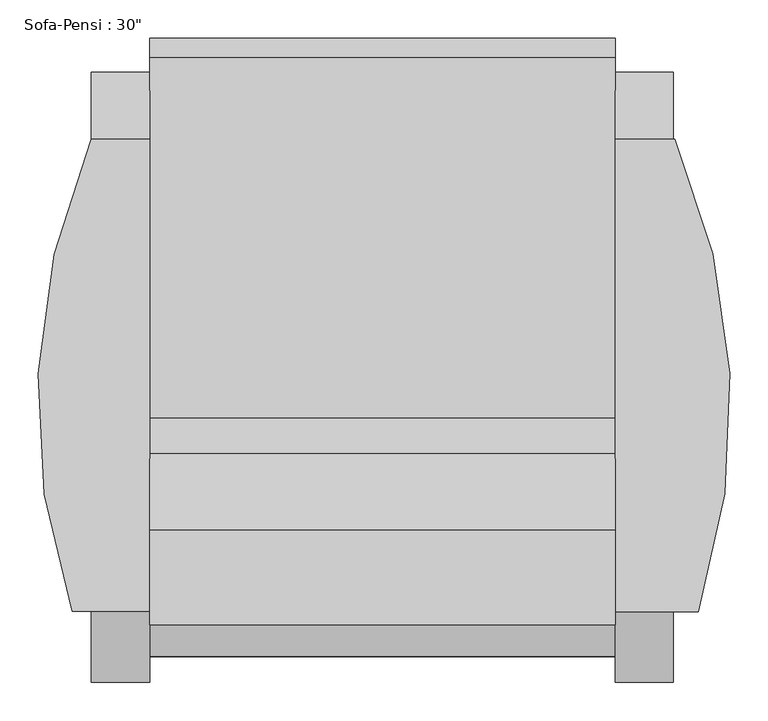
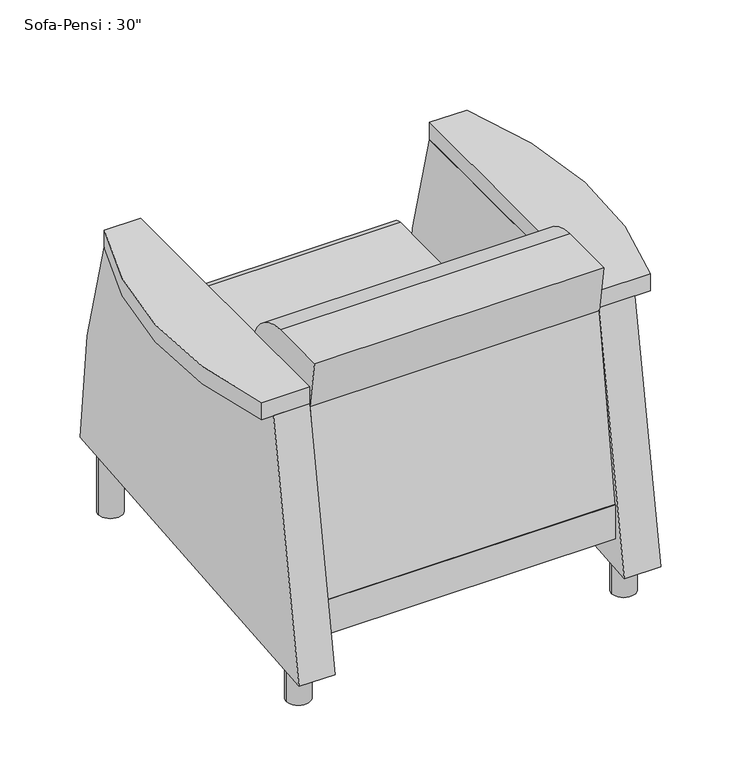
"""IFC4 building model written with IfcOpenShell, lengths in millimetres: furniture geometry."""

from ifc_helpers import new_model, si_unit, point, frame, frame_2d, origin, origin_with_axes, place, context, project, spatial, polyline, circle_curve, trimmed, segment, composite_curve, outline, extrude, source, transform, mapped, element, save


def furniture_6a91d5e0(model_context):
    return source(origin(), model_context, "Body", "SweptSolid", [
        extrude(outline(composite_curve([segment(trimmed(circle_curve(frame_2d((-64.29375, 53.0901639)), 25.4), [point((-89.69375, 53.0901639))], [point((-38.89375, 53.0901639))], False, "CARTESIAN"), True, "CONTINUOUS"), segment(trimmed(circle_curve(frame_2d((-64.29375, 53.0901639)), 25.4), [point((-38.89375, 53.0901639))], [point((-89.69375, 53.0901639))], False, "CARTESIAN"), True, "CONTINUOUS")], self_intersect=False)), origin_with_axes(), (0.0, 0.0, 1.0), 148.43125),
        extrude(outline(composite_curve([segment(trimmed(circle_curve(frame_2d((-64.29375, -632.7098361)), 25.4), [point((-89.69375, -632.7098361))], [point((-38.89375, -632.7098361))], False, "CARTESIAN"), True, "CONTINUOUS"), segment(trimmed(circle_curve(frame_2d((-64.29375, -632.7098361)), 25.4), [point((-38.89375, -632.7098361))], [point((-89.69375, -632.7098361))], False, "CARTESIAN"), True, "CONTINUOUS")], self_intersect=False)), origin_with_axes(), (0.0, 0.0, 1.0), 148.43125),
        extrude(outline(composite_curve([segment(trimmed(circle_curve(frame_2d((621.50625, -632.7098361)), 25.4), [point((596.10625, -632.7098361))], [point((646.90625, -632.7098361))], False, "CARTESIAN"), True, "CONTINUOUS"), segment(trimmed(circle_curve(frame_2d((621.50625, -632.7098361)), 25.4), [point((646.90625, -632.7098361))], [point((596.10625, -632.7098361))], False, "CARTESIAN"), True, "CONTINUOUS")], self_intersect=False)), origin_with_axes(), (0.0, 0.0, 1.0), 148.43125),
        extrude(outline(composite_curve([segment(trimmed(circle_curve(frame_2d((621.50625, 53.0901639)), 25.4), [point((596.10625, 53.0901639))], [point((646.90625, 53.0901639))], False, "CARTESIAN"), True, "CONTINUOUS"), segment(trimmed(circle_curve(frame_2d((621.50625, 53.0901639)), 25.4), [point((646.90625, 53.0901639))], [point((596.10625, 53.0901639))], False, "CARTESIAN"), True, "CONTINUOUS")], self_intersect=False)), origin_with_axes(), (0.0, 0.0, 1.0), 148.43125),
        extrude(outline(polyline([(583.40625, -668.3047863), (-26.19375, -668.3047863), (-26.19375, 93.6952137), (583.40625, 93.6952137), (583.40625, -668.3047863)])), frame((0.0, 0.0, 148.0509954), z_axis=(0.0, 0.0, 1.0), x_axis=(1.0, 0.0, 0.0)), (0.0, 0.0, 1.0), 76.2),
        extrude(outline(composite_curve([segment(trimmed(circle_curve(frame_2d((-1499.9783711, 99.5888442)), 1598.5418814), [point((9.3943348, 626.0203985))], [point((97.7900405, 149.3105671))], False, "CARTESIAN"), True, "CONTINUOUS"), segment(polyline([(97.7900405, 149.3105671), (-701.7619204, 79.3588346), (-608.6917937, 626.0203985), (9.3943348, 626.0203985)]), True, "CONTINUOUS")], self_intersect=False)), frame((-102.39375, 0.0, 0.0), z_axis=(1.0, 0.0, 0.0), x_axis=(0.0, 1.0, 0.0)), (0.0, 0.0, 1.0), 76.2),
        extrude(outline(composite_curve([segment(polyline([(-701.7619204, 79.3588346), (-608.6917937, 626.0203985), (9.3943348, 626.0203985)]), True, "CONTINUOUS"), segment(trimmed(circle_curve(frame_2d((-1499.9783711, 99.5888442)), 1598.5418814), [point((9.3943348, 626.0203985))], [point((97.7900405, 149.3105671))], False, "CARTESIAN"), True, "CONTINUOUS"), segment(polyline([(97.7900405, 149.3105671), (-701.7619204, 79.3588346)]), True, "CONTINUOUS")], self_intersect=False)), frame((583.40625, 0.0, 0.0), z_axis=(1.0, 0.0, 0.0), x_axis=(0.0, 1.0, 0.0)), (0.0, 0.0, 1.0), 76.2),
        extrude(outline(composite_curve([segment(polyline([(141.9901639, 351.2509954), (141.9901639, 240.1259954)]), True, "CONTINUOUS"), segment(trimmed(circle_curve(frame_2d((126.1151639, 240.1259954)), 15.875), [point((141.9901639, 240.1259954))], [point((126.1151639, 224.2509954))], False, "CARTESIAN"), True, "CONTINUOUS"), segment(polyline([(126.1151639, 224.2509954), (-667.6541767, 224.2509954), (-609.5377828, 620.1719187), (-626.3344485, 726.0768662), (-502.2552854, 726.0768662)]), True, "CONTINUOUS"), segment(trimmed(circle_curve(frame_2d((-502.2552854, 624.4768662)), 101.6), [point((-502.2552854, 726.0768662))], [point((-402.1988177, 642.1195211))], False, "CARTESIAN"), True, "CONTINUOUS"), segment(polyline([(-402.1988177, 642.1195211), (-355.3895541, 376.6509954), (116.5901639, 376.6509954)]), True, "CONTINUOUS"), segment(trimmed(circle_curve(frame_2d((116.5901639, 351.2509954)), 25.4), [point((116.5901639, 376.6509954))], [point((141.9901639, 351.2509954))], False, "CARTESIAN"), True, "CONTINUOUS")], self_intersect=False)), frame((-26.19375, 0.0, 0.0), z_axis=(1.0, 0.0, 0.0), x_axis=(0.0, 1.0, 0.0)), (0.0, 0.0, 1.0), 609.6),
        extrude(outline(composite_curve([segment(polyline([(-26.19375, 9.3943348), (-26.19375, -608.6917935), (-127.79375, -608.6917935)]), True, "CONTINUOUS"), segment(trimmed(circle_curve(frame_2d((693.7527561, -332.8879501)), 866.6062668), [point((-127.79375, -608.6917935))], [point((-102.39375, 9.3943348))], False, "CARTESIAN"), True, "CONTINUOUS"), segment(polyline([(-102.39375, 9.3943348), (-26.19375, 9.3943348)]), True, "CONTINUOUS")], self_intersect=False)), frame((0.0, 0.0, 626.0203985), z_axis=(0.0, 0.0, 1.0), x_axis=(1.0, 0.0, 0.0)), (0.0, 0.0, 1.0), 38.1),
        extrude(outline(composite_curve([segment(polyline([(583.40625, 9.3943348), (661.7273117, 9.3943348)]), True, "CONTINUOUS"), segment(trimmed(circle_curve(frame_2d((-135.5771494, -339.6641702)), 870.3655805), [point((661.7273117, 9.3943348))], [point((692.0864453, -608.9395268))], False, "CARTESIAN"), True, "CONTINUOUS"), segment(polyline([(692.0864453, -608.9395268), (583.40625, -608.9395268), (583.40625, 9.3943348)]), True, "CONTINUOUS")], self_intersect=False)), frame((0.0, 0.0, 626.0203985), z_axis=(0.0, 0.0, 1.0), x_axis=(1.0, 0.0, 0.0)), (0.0, 0.0, 1.0), 38.1),
    ])


if __name__ == "__main__":
    model = new_model("IFC4")
    model_context = context("Model", 3, world=origin())
    ifc_project = project(units=[si_unit("LENGTHUNIT", "METRE", prefix="MILLI")], contexts=[model_context])
    site = spatial("IfcSite", under=ifc_project)
    building = spatial("IfcBuilding", under=site)
    placement = place(None, origin())
    furniture_shape = furniture_6a91d5e0(model_context)
    element("IfcFurniture", 1, ObjectType="Sofa-Pensi : 30\"", at=placement, inside=building, context=model_context, shape_type="MappedRepresentation", body=[
        mapped(furniture_shape, transform((0.0, 0.0, 0.0), x_axis=(1.0, 0.0, 0.0), y_axis=(0.0, 1.0, 0.0), z_axis=(0.0, 0.0, 1.0))),
    ])
    save(model, "model.ifc")
